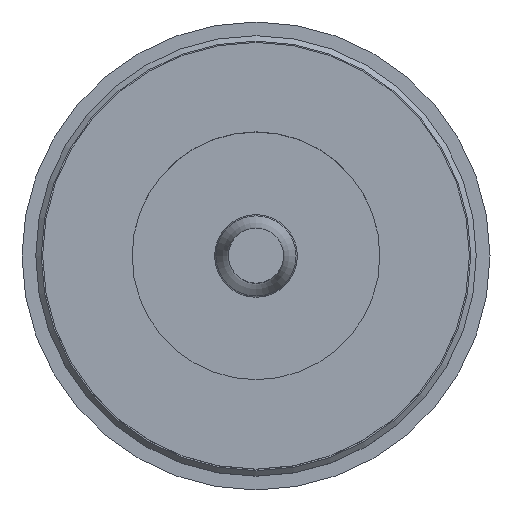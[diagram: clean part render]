
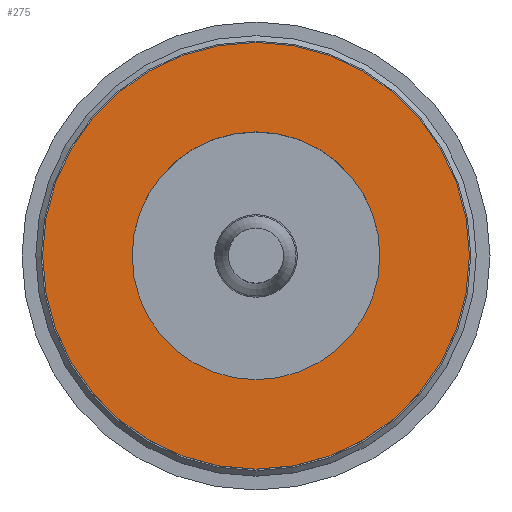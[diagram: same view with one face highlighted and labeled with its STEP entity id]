
A CAD part, top view. The second image highlights one B-rep face of the part: STEP entity #275.
In plain terms, the highlighted planar face has unit normal (0, 0, 1).
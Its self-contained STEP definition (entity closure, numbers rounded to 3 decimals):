
#213=PLANE('',#1131);
#275=ADVANCED_FACE('AS_FLANSCH',(#372,#373),#213,.T.);
#372=FACE_BOUND('',#475,.T.);
#373=FACE_BOUND('',#476,.T.);
#475=EDGE_LOOP('',(#717));
#476=EDGE_LOOP('',(#718));
#717=ORIENTED_EDGE('',*,*,#928,.T.);
#718=ORIENTED_EDGE('',*,*,#939,.F.);
#807=VERTEX_POINT('',#1697);
#818=VERTEX_POINT('',#1729);
#928=EDGE_CURVE('',#807,#807,#993,.T.);
#939=EDGE_CURVE('',#818,#818,#1004,.T.);
#993=CIRCLE('',#1108,4.5);
#1004=CIRCLE('',#1129,7.75);
#1108=AXIS2_PLACEMENT_3D('',#1696,#1396,#1397);
#1129=AXIS2_PLACEMENT_3D('',#1728,#1438,#1439);
#1131=AXIS2_PLACEMENT_3D('',#1731,#1442,#1443);
#1396=DIRECTION('',(0.,0.,-1.));
#1397=DIRECTION('',(-1.,0.,0.));
#1438=DIRECTION('',(0.,0.,-1.));
#1439=DIRECTION('',(-1.,0.,0.));
#1442=DIRECTION('',(0.,0.,1.));
#1443=DIRECTION('',(1.,0.,0.));
#1696=CARTESIAN_POINT('',(0.,0.,8.4));
#1697=CARTESIAN_POINT('',(-4.5,0.,8.4));
#1728=CARTESIAN_POINT('',(0.,0.,8.4));
#1729=CARTESIAN_POINT('',(-7.75,0.,8.4));
#1731=CARTESIAN_POINT('',(7.75,0.,8.4));
